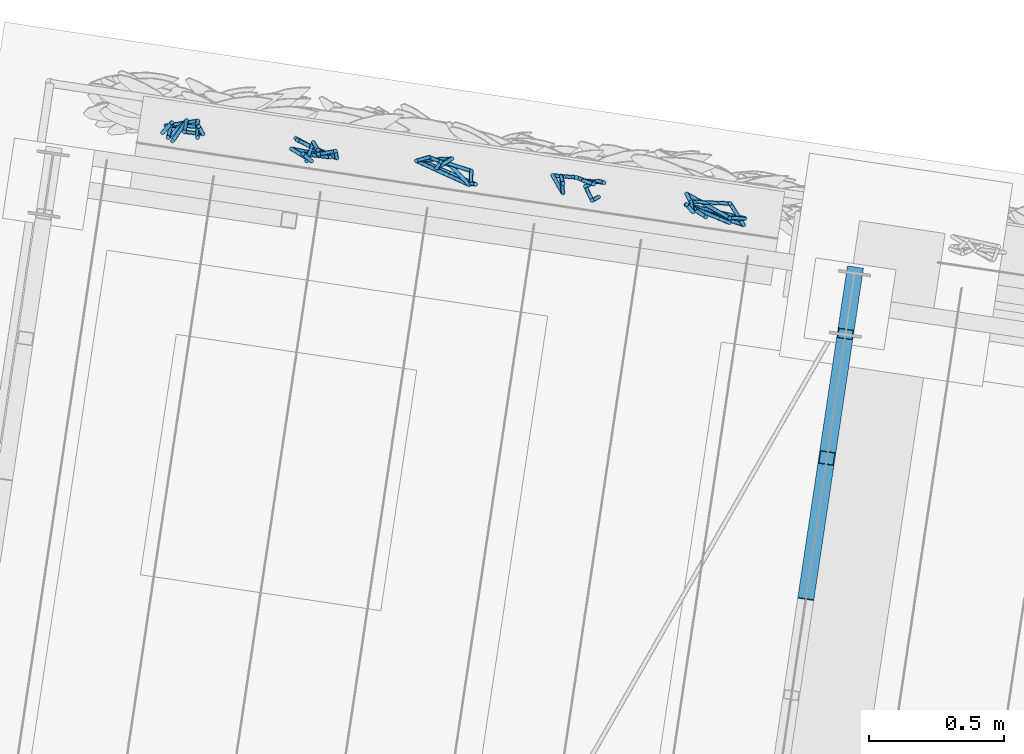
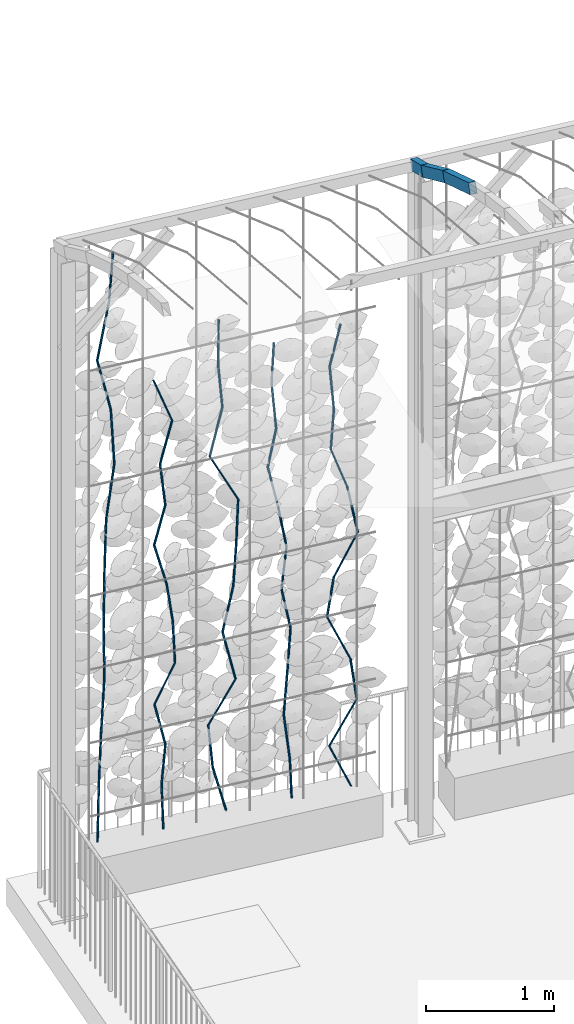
# One storey, part 112 of 142: 58 members, 2 elements without a shape of their own.
"""IFC4 building model written with IfcOpenShell, lengths in metres."""

from ifc_helpers import new_model, si_unit, direction, frame, origin_with_axes, place, context, subcontext, project, spatial, hollow_rectangle, circle, extrude, material, material_profile, profile_set, profile_usage, type_object, element, aggregate, save


model = new_model("IFC4")

# Units and contexts
model_context = context("Model", 3, precision=1e-05, world=origin_with_axes(), true_north=direction((0.0, 1.0)))
body_context = subcontext(model_context, "Body", "Model", "MODEL_VIEW")
ifc_project = project(units=[si_unit("AREAUNIT", "SQUARE_METRE"), si_unit("VOLUMEUNIT", "CUBIC_METRE"), si_unit("LENGTHUNIT", "METRE")], contexts=[model_context])

# Site, building, storey
site_placement = place(None, origin_with_axes())
site = spatial("IfcSite", under=ifc_project, at=site_placement, Name="Lares · Rua das Mercês · artigo 4771")
building_placement = place(site_placement, frame((15.0, 9.7, 14.65), z_axis=(0.0, 0.0, 1.0), x_axis=(0.989015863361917, -0.147809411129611, 0.0)))
building = spatial("IfcBuilding", under=site, at=building_placement, Name="Casa Sobreposta")
storey_placement = place(building_placement, origin_with_axes())
storey = spatial("IfcBuildingStorey", under=building, at=storey_placement, Name="00 · Habitação e estacionamento", Elevation=14.65)

# Assembly, members
assembly_1_placement = place(storey_placement, origin_with_axes())
assembly_1 = element("IfcElementAssembly", 1, at=assembly_1_placement, inside=storey, Name="Pérgola · prolongamento da estufa 6 m", ObjectType="PERGOLA_GREENHOUSE_EXTENSION", PredefinedType="USERDEFINED")
ifc_material_1 = material(Name="Aço pintado / Stahl lackiert", Category="steel")
ifc_material_profile_1 = material_profile(ifc_material_1, hollow_rectangle(XDim=0.06, YDim=0.1, WallThickness=0.004))
ifc_profile_set_1 = profile_set([ifc_material_profile_1], Name="RHS100x60x4")
ifc_profile_usage_1 = profile_usage(ifc_profile_set_1)
member_type_1 = type_object("IfcMemberType", Name="RHS100x60x4 / steel", PredefinedType="NOTDEFINED", material=ifc_profile_set_1)
member_1_placement = place(assembly_1_placement, frame((-3.0, 5.15650506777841, 6.8157371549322), z_axis=(0.0, 0.915895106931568, -0.401417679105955), x_axis=(1.0, 0.0, 0.0)))
member_1 = element("IfcMember", 2, at=member_1_placement, type_object=member_type_1, material=ifc_profile_usage_1, Name="Pérgola · arco contínuo com a estufa", context=body_context, shape_type="SweptSolid", body=[
    extrude(hollow_rectangle(XDim=0.06, YDim=0.1, WallThickness=0.004), origin_with_axes(), (0.0, 0.0, 1.0), 0.596721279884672),
])
ifc_profile_usage_2 = profile_usage(ifc_profile_set_1)
member_2_placement = place(assembly_1_placement, frame((-3.0, 5.70303916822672, 6.57620268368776), z_axis=(0.0, 0.878867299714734, -0.477066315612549), x_axis=(1.0, 0.0, 0.0)))
member_2 = element("IfcMember", 3, at=member_2_placement, type_object=member_type_1, material=ifc_profile_usage_2, Name="Pérgola · arco contínuo com a estufa", context=body_context, shape_type="SweptSolid", body=[
    extrude(hollow_rectangle(XDim=0.06, YDim=0.1, WallThickness=0.004), origin_with_axes(), (0.0, 0.0, 1.0), 0.52859183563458),
])
ifc_profile_usage_3 = profile_usage(ifc_profile_set_1)
member_3_placement = place(assembly_1_placement, frame((-3.0, 6.16760124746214, 6.3240293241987), z_axis=(0.0, 0.932880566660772, -0.360185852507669), x_axis=(1.0, 0.0, 0.0)))
member_3 = element("IfcMember", 4, at=member_3_placement, type_object=member_type_1, material=ifc_profile_usage_3, Name="Pérgola · arco contínuo com a estufa", context=body_context, shape_type="SweptSolid", body=[
    extrude(hollow_rectangle(XDim=0.06, YDim=0.1, WallThickness=0.004), origin_with_axes(), (0.0, 0.0, 1.0), 0.249119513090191),
])
aggregate(assembly_1, [member_1, member_2, member_3])

assembly_2_placement = place(storey_placement, origin_with_axes())
assembly_2 = element("IfcElementAssembly", 5, at=assembly_2_placement, inside=storey, Name="Fachada sul e pátio · estrutura e trepadeiras", ObjectType="LIVING_SHADE_TRELLIS", PredefinedType="USERDEFINED")
ifc_material_2 = material(Name="Ramos de trepadeiras", Category="wood")
ifc_material_profile_2 = material_profile(ifc_material_2, circle(Radius=0.0075))
ifc_profile_set_2 = profile_set([ifc_material_profile_2], Name="D0.015")
ifc_profile_usage_4 = profile_usage(ifc_profile_set_2)
member_type_2 = type_object("IfcMemberType", Name="D0.015 / vine_wood", PredefinedType="NOTDEFINED", material=ifc_profile_set_2)
member_4_placement = place(assembly_2_placement, frame((-5.61062551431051, 6.53102255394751, 0.35), z_axis=(0.0548183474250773, 0.0823641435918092, 0.995093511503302), x_axis=(0.83247493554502, -0.554062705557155, 0.0)))
member_4 = element("IfcMember", 6, at=member_4_placement, type_object=member_type_2, material=ifc_profile_usage_4, Name="Trepadeiras · ramo", context=body_context, shape_type="SweptSolid", body=[
    extrude(circle(Radius=0.0075), origin_with_axes(), (0.0, 0.0, 1.0), 0.511123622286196),
])
ifc_profile_usage_5 = profile_usage(ifc_profile_set_2)
member_5_placement = place(assembly_2_placement, frame((-5.58260656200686, 6.57312081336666, 0.858615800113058), z_axis=(-0.00976761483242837, -0.111772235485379, 0.993685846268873), x_axis=(-0.996203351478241, 0.0870567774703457, 0.0)))
member_5 = element("IfcMember", 7, at=member_5_placement, type_object=member_type_2, material=ifc_profile_usage_5, Name="Trepadeiras · ramo", context=body_context, shape_type="SweptSolid", body=[
    extrude(circle(Radius=0.0075), origin_with_axes(), (0.0, 0.0, 1.0), 0.511847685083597),
])
ifc_profile_usage_6 = profile_usage(ifc_profile_set_2)
member_6_placement = place(assembly_2_placement, frame((-5.58760609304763, 6.51591045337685, 1.36723160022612), z_axis=(0.112625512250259, 0.141112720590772, 0.983566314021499), x_axis=(0.781583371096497, -0.6238007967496, 0.0)))
member_6 = element("IfcMember", 8, at=member_6_placement, type_object=member_type_2, material=ifc_profile_usage_6, Name="Trepadeiras · ramo", context=body_context, shape_type="SweptSolid", body=[
    extrude(circle(Radius=0.0075), origin_with_axes(), (0.0, 0.0, 1.0), 0.517113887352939),
])
ifc_profile_usage_7 = profile_usage(ifc_profile_set_2)
member_7_placement = place(assembly_2_placement, frame((-5.52936587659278, 6.58888180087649, 1.87584740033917), z_axis=(-0.0781133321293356, -0.161839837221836, 0.983720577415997), x_axis=(-0.90058702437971, 0.434675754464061, 0.0)))
member_7 = element("IfcMember", 9, at=member_7_placement, type_object=member_type_2, material=ifc_profile_usage_7, Name="Trepadeiras · ramo", context=body_context, shape_type="SweptSolid", body=[
    extrude(circle(Radius=0.0075), origin_with_axes(), (0.0, 0.0, 1.0), 0.517032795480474),
])
ifc_profile_usage_8 = profile_usage(ifc_profile_set_2)
member_8_placement = place(assembly_2_placement, frame((-5.56975303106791, 6.50520529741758, 2.38446320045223), z_axis=(0.078738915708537, 0.159780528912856, 0.984007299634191), x_axis=(0.89699768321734, -0.442035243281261, 0.0)))
member_8 = element("IfcMember", 10, at=member_8_placement, type_object=member_type_2, material=ifc_profile_usage_8, Name="Trepadeiras · ramo", context=body_context, shape_type="SweptSolid", body=[
    extrude(circle(Radius=0.0075), origin_with_axes(), (0.0, 0.0, 1.0), 0.516882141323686),
])
ifc_profile_usage_9 = profile_usage(ifc_profile_set_2)
member_9_placement = place(assembly_2_placement, frame((-5.52905429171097, 6.58779299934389, 2.89307900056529), z_axis=(-0.00477616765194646, -0.0816811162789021, 0.996647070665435), x_axis=(-0.998294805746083, 0.0583736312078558, 0.0)))
member_9 = element("IfcMember", 11, at=member_9_placement, type_object=member_type_2, material=ifc_profile_usage_9, Name="Trepadeiras · ramo", context=body_context, shape_type="SweptSolid", body=[
    extrude(circle(Radius=0.0075), origin_with_axes(), (0.0, 0.0, 1.0), 0.510326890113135),
])
ifc_profile_usage_10 = profile_usage(ifc_profile_set_2)
member_10_placement = place(assembly_2_placement, frame((-5.53149169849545, 6.54610892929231, 3.40169480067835), z_axis=(0.134710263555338, 0.00481535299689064, 0.990873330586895), x_axis=(0.0357231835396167, -0.999361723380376, -7.96985533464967e-19)))
member_10 = element("IfcMember", 12, at=member_10_placement, type_object=member_type_2, material=ifc_profile_usage_10, Name="Trepadeiras · ramo", context=body_context, shape_type="SweptSolid", body=[
    extrude(circle(Radius=0.0075), origin_with_axes(), (0.0, 0.0, 1.0), 0.513300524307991),
])
ifc_profile_usage_11 = profile_usage(ifc_profile_set_2)
member_11_placement = place(assembly_2_placement, frame((-5.46234484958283, 6.54858065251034, 3.91031060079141), z_axis=(-0.0383027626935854, 0.0489541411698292, 0.99806632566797), x_axis=(0.787576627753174, 0.616216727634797, 0.0)))
member_11 = element("IfcMember", 13, at=member_11_placement, type_object=member_type_2, material=ifc_profile_usage_11, Name="Trepadeiras · ramo", context=body_context, shape_type="SweptSolid", body=[
    extrude(circle(Radius=0.0075), origin_with_axes(), (0.0, 0.0, 1.0), 0.509601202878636),
])
ifc_profile_usage_12 = profile_usage(ifc_profile_set_2)
member_12_placement = place(assembly_2_placement, frame((-5.48186398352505, 6.57352774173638, 4.41892640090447), z_axis=(-0.229983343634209, -0.028965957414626, 0.972763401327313), x_axis=(-0.124960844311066, 0.992161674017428, 0.0)))
member_12 = element("IfcMember", 14, at=member_12_placement, type_object=member_type_2, material=ifc_profile_usage_12, Name="Trepadeiras · ramo", context=body_context, shape_type="SweptSolid", body=[
    extrude(circle(Radius=0.0075), origin_with_axes(), (0.0, 0.0, 1.0), 0.522856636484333),
])
ifc_profile_usage_13 = profile_usage(ifc_profile_set_2)
member_13_placement = place(assembly_2_placement, frame((-5.60211230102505, 6.55838269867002, 4.92754220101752), z_axis=(0.217821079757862, 0.0672022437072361, 0.973672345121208), x_axis=(0.294808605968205, -0.955556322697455, 0.0)))
member_13 = element("IfcMember", 15, at=member_13_placement, type_object=member_type_2, material=ifc_profile_usage_13, Name="Trepadeiras · ramo", context=body_context, shape_type="SweptSolid", body=[
    extrude(circle(Radius=0.0075), origin_with_axes(), (0.0, 0.0, 1.0), 0.522368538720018),
])
ifc_profile_usage_14 = profile_usage(ifc_profile_set_2)
member_14_placement = place(assembly_2_placement, frame((-5.48832942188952, 6.59348703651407, 5.43615800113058), z_axis=(0.0159287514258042, -0.120372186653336, 0.992601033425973), x_axis=(-0.991357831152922, -0.131185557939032, 0.0)))
member_14 = element("IfcMember", 16, at=member_14_placement, type_object=member_type_2, material=ifc_profile_usage_14, Name="Trepadeiras · ramo", context=body_context, shape_type="SweptSolid", body=[
    extrude(circle(Radius=0.0075), origin_with_axes(), (0.0, 0.0, 1.0), 0.512407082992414),
])
ifc_profile_usage_15 = profile_usage(ifc_profile_set_2)
member_15_placement = place(assembly_2_placement, frame((-5.06742901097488, 6.50636980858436, 0.35), z_axis=(0.0353901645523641, 0.18278637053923, 0.982515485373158), x_axis=(0.981767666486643, -0.190084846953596, 0.0)))
member_15 = element("IfcMember", 17, at=member_15_placement, type_object=member_type_2, material=ifc_profile_usage_15, Name="Trepadeiras · ramo", context=body_context, shape_type="SweptSolid", body=[
    extrude(circle(Radius=0.0075), origin_with_axes(), (0.0, 0.0, 1.0), 0.393038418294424),
])
ifc_profile_usage_16 = profile_usage(ifc_profile_set_2)
member_16_placement = place(assembly_2_placement, frame((-5.05351931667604, 6.57821187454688, 0.736166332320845), z_axis=(0.0556737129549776, -0.068234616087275, 0.996114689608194), x_axis=(-0.774817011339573, -0.632185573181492, 0.0)))
member_16 = element("IfcMember", 18, at=member_16_placement, type_object=member_type_2, material=ifc_profile_usage_16, Name="Trepadeiras · ramo", context=body_context, shape_type="SweptSolid", body=[
    extrude(circle(Radius=0.0075), origin_with_axes(), (0.0, 0.0, 1.0), 0.387672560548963),
])
ifc_profile_usage_17 = profile_usage(ifc_profile_set_2)
member_17_placement = place(assembly_2_placement, frame((-5.03193614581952, 6.55175918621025, 1.12233266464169), z_axis=(-0.205369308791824, 0.0655980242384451, 0.976483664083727), x_axis=(0.304270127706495, 0.952585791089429, 0.0)))
member_17 = element("IfcMember", 19, at=member_17_placement, type_object=member_type_2, material=ifc_profile_usage_17, Name="Trepadeiras · ramo", context=body_context, shape_type="SweptSolid", body=[
    extrude(circle(Radius=0.0075), origin_with_axes(), (0.0, 0.0, 1.0), 0.395466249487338),
])
ifc_profile_usage_18 = profile_usage(ifc_profile_set_2)
member_18_placement = place(assembly_2_placement, frame((-5.11315277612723, 6.57770099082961, 1.50849899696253), z_axis=(0.369026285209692, -0.107377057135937, 0.923195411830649), x_axis=(-0.279387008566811, -0.960178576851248, -1.66678120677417e-17)))
member_18 = element("IfcMember", 20, at=member_18_placement, type_object=member_type_2, material=ifc_profile_usage_18, Name="Trepadeiras · ramo", context=body_context, shape_type="SweptSolid", body=[
    extrude(circle(Radius=0.0075), origin_with_axes(), (0.0, 0.0, 1.0), 0.41829316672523),
])
ifc_profile_usage_19 = profile_usage(ifc_profile_set_2)
member_19_placement = place(assembly_2_placement, frame((-4.95879160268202, 6.53278590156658, 1.89466532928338), z_axis=(-0.0229513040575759, 0.0642605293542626, 0.997669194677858), x_axis=(0.941736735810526, 0.336350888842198, 3.17038529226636e-18)))
member_19 = element("IfcMember", 21, at=member_19_placement, type_object=member_type_2, material=ifc_profile_usage_19, Name="Trepadeiras · ramo", context=body_context, shape_type="SweptSolid", body=[
    extrude(circle(Radius=0.0075), origin_with_axes(), (0.0, 0.0, 1.0), 0.387068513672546),
])
ifc_profile_usage_20 = profile_usage(ifc_profile_set_2)
member_20_placement = place(assembly_2_placement, frame((-4.96767532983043, 6.55765912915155, 2.28083166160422), z_axis=(-0.154656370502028, -0.0516676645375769, 0.986616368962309), x_axis=(-0.316865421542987, 0.948470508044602, 0.0)))
member_20 = element("IfcMember", 22, at=member_20_placement, type_object=member_type_2, material=ifc_profile_usage_20, Name="Trepadeiras · ramo", context=body_context, shape_type="SweptSolid", body=[
    extrude(circle(Radius=0.0075), origin_with_axes(), (0.0, 0.0, 1.0), 0.391404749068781),
])
ifc_profile_usage_21 = profile_usage(ifc_profile_set_2)
member_21_placement = place(assembly_2_placement, frame((-5.02820856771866, 6.53743615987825, 2.66699799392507), z_axis=(-0.254671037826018, 0.0128912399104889, 0.966941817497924), x_axis=(0.0505544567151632, 0.998721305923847, 0.0)))
member_21 = element("IfcMember", 23, at=member_21_placement, type_object=member_type_2, material=ifc_profile_usage_21, Name="Trepadeiras · ramo", context=body_context, shape_type="SweptSolid", body=[
    extrude(circle(Radius=0.0075), origin_with_axes(), (0.0, 0.0, 1.0), 0.399368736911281),
])
ifc_profile_usage_22 = profile_usage(ifc_profile_set_2)
member_22_placement = place(assembly_2_placement, frame((-5.12991621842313, 6.54258451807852, 3.05316432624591), z_axis=(0.202327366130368, -0.0854035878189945, 0.975586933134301), x_axis=(-0.388881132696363, -0.921287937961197, 0.0)))
member_22 = element("IfcMember", 24, at=member_22_placement, type_object=member_type_2, material=ifc_profile_usage_22, Name="Trepadeiras · ramo", context=body_context, shape_type="SweptSolid", body=[
    extrude(circle(Radius=0.0075), origin_with_axes(), (0.0, 0.0, 1.0), 0.395829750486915),
])
ifc_profile_usage_23 = profile_usage(ifc_profile_set_2)
member_23_placement = place(assembly_2_placement, frame((-5.04982902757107, 6.50877923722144, 3.43933065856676), z_axis=(-0.0916184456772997, 0.0549727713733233, 0.994275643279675), x_axis=(0.514507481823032, 0.857485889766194, 0.0)))
member_23 = element("IfcMember", 25, at=member_23_placement, type_object=member_type_2, material=ifc_profile_usage_23, Name="Trepadeiras · ramo", context=body_context, shape_type="SweptSolid", body=[
    extrude(circle(Radius=0.0075), origin_with_axes(), (0.0, 0.0, 1.0), 0.388389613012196),
])
ifc_profile_usage_24 = profile_usage(ifc_profile_set_2)
member_24_placement = place(assembly_2_placement, frame((-5.08541268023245, 6.53013009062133, 3.8254969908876), z_axis=(0.256565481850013, 0.00653359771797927, 0.966504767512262), x_axis=(0.0254573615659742, -0.999675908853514, 0.0)))
member_24 = element("IfcMember", 26, at=member_24_placement, type_object=member_type_2, material=ifc_profile_usage_24, Name="Trepadeiras · ramo", context=body_context, shape_type="SweptSolid", body=[
    extrude(circle(Radius=0.0075), origin_with_axes(), (0.0, 0.0, 1.0), 0.39954933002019),
])
ifc_profile_usage_25 = profile_usage(ifc_profile_set_2)
member_25_placement = place(assembly_2_placement, frame((-4.98290211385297, 6.53274058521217, 4.21166332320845), z_axis=(-0.333263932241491, 0.122975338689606, 0.934779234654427), x_axis=(0.346185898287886, 0.938165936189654, 0.0)))
member_25 = element("IfcMember", 27, at=member_25_placement, type_object=member_type_2, material=ifc_profile_usage_25, Name="Trepadeiras · ramo", context=body_context, shape_type="SweptSolid", body=[
    extrude(circle(Radius=0.0075), origin_with_axes(), (0.0, 0.0, 1.0), 0.413109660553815),
])
ifc_profile_usage_26 = profile_usage(ifc_profile_set_2)
member_26_placement = place(assembly_2_placement, frame((-4.516484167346, 6.56319348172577, 0.35), z_axis=(-0.237502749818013, 0.0547067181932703, 0.969845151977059), x_axis=(0.224463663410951, 0.974482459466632, 0.0)))
member_26 = element("IfcMember", 28, at=member_26_placement, type_object=member_type_2, material=ifc_profile_usage_26, Name="Trepadeiras · ramo", context=body_context, shape_type="SweptSolid", body=[
    extrude(circle(Radius=0.0075), origin_with_axes(), (0.0, 0.0, 1.0), 0.439365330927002),
])
ifc_profile_usage_27 = profile_usage(ifc_profile_set_2)
member_27_placement = place(assembly_2_placement, frame((-4.62083464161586, 6.58722971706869, 0.776116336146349), z_axis=(-0.106307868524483, -0.0477073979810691, 0.993188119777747), x_axis=(-0.409428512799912, 0.912342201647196, 0.0)))
member_27 = element("IfcMember", 29, at=member_27_placement, type_object=member_type_2, material=ifc_profile_usage_27, Name="Trepadeiras · ramo", context=body_context, shape_type="SweptSolid", body=[
    extrude(circle(Radius=0.0075), origin_with_axes(), (0.0, 0.0, 1.0), 0.429038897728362),
])
ifc_profile_usage_28 = profile_usage(ifc_profile_set_2)
member_28_placement = place(assembly_2_placement, frame((-4.66644485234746, 6.5667613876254, 1.2022326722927), z_axis=(0.43290575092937, -0.123104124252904, 0.892993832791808), x_axis=(-0.273522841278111, -0.961865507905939, 0.0)))
member_28 = element("IfcMember", 30, at=member_28_placement, type_object=member_type_2, material=ifc_profile_usage_28, Name="Trepadeiras · ramo", context=body_context, shape_type="SweptSolid", body=[
    extrude(circle(Radius=0.0075), origin_with_axes(), (0.0, 0.0, 1.0), 0.47717724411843),
])
ifc_profile_usage_29 = profile_usage(ifc_profile_set_2)
member_29_placement = place(assembly_2_placement, frame((-4.45987207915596, 6.50801890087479, 1.62834900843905), z_axis=(-0.190491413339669, 0.14988591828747, 0.970178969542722), x_axis=(0.618367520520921, 0.785889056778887, 0.0)))
member_29 = element("IfcMember", 31, at=member_29_placement, type_object=member_type_2, material=ifc_profile_usage_29, Name="Trepadeiras · ramo", context=body_context, shape_type="SweptSolid", body=[
    extrude(circle(Radius=0.0075), origin_with_axes(), (0.0, 0.0, 1.0), 0.43921415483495),
])
ifc_profile_usage_30 = profile_usage(ifc_profile_set_2)
member_30_placement = place(assembly_2_placement, frame((-4.54353860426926, 6.57385091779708, 2.0544653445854), z_axis=(0.1941509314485, -0.0330556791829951, 0.980414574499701), x_axis=(-0.167842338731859, -0.985813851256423, -4.3178291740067e-18)))
member_30 = element("IfcMember", 32, at=member_30_placement, type_object=member_type_2, material=ifc_profile_usage_30, Name="Trepadeiras · ramo", context=body_context, shape_type="SweptSolid", body=[
    extrude(circle(Radius=0.0075), origin_with_axes(), (0.0, 0.0, 1.0), 0.434628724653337),
])
ifc_profile_usage_31 = profile_usage(ifc_profile_set_2)
member_31_placement = place(assembly_2_placement, frame((-4.45915503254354, 6.55948397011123, 2.48058168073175), z_axis=(0.0144929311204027, -0.109943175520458, 0.993832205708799), x_axis=(-0.991423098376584, -0.130691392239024, 0.0)))
member_31 = element("IfcMember", 33, at=member_31_placement, type_object=member_type_2, material=ifc_profile_usage_31, Name="Trepadeiras · ramo", context=body_context, shape_type="SweptSolid", body=[
    extrude(circle(Radius=0.0075), origin_with_axes(), (0.0, 0.0, 1.0), 0.428760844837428),
])
ifc_profile_usage_32 = profile_usage(ifc_profile_set_2)
member_32_placement = place(assembly_2_placement, frame((-4.45294103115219, 6.51234464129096, 2.90669801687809), z_axis=(0.0391360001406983, 0.00180597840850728, 0.999232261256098), x_axis=(0.999233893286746, -7.07329602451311e-05, -0.0391359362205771)))
member_32 = element("IfcMember", 34, at=member_32_placement, type_object=member_type_2, material=ifc_profile_usage_32, Name="Trepadeiras · ramo", context=body_context, shape_type="SweptSolid", body=[
    extrude(circle(Radius=0.0075), origin_with_axes(), (0.0, 0.0, 1.0), 0.426443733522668),
])
ifc_profile_usage_33 = profile_usage(ifc_profile_set_2)
member_33_placement = place(assembly_2_placement, frame((-4.43625172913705, 6.51311478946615, 3.33281435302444), z_axis=(-0.448214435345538, 0.121140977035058, 0.885679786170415), x_axis=(0.26091291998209, 0.965362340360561, 0.0)))
member_33 = element("IfcMember", 35, at=member_33_placement, type_object=member_type_2, material=ifc_profile_usage_33, Name="Trepadeiras · ramo", context=body_context, shape_type="SweptSolid", body=[
    extrude(circle(Radius=0.0075), origin_with_axes(), (0.0, 0.0, 1.0), 0.481117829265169),
])
ifc_profile_usage_34 = profile_usage(ifc_profile_set_2)
member_34_placement = place(assembly_2_placement, frame((-4.6518956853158, 6.57139787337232, 3.75893068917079), z_axis=(0.26034641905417, 0.0511473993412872, 0.964159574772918), x_axis=(0.192774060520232, -0.981243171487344, 0.0)))
member_34 = element("IfcMember", 36, at=member_34_placement, type_object=member_type_2, material=ifc_profile_usage_34, Name="Trepadeiras · ramo", context=body_context, shape_type="SweptSolid", body=[
    extrude(circle(Radius=0.0075), origin_with_axes(), (0.0, 0.0, 1.0), 0.441956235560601),
])
ifc_profile_usage_35 = profile_usage(ifc_profile_set_2)
member_35_placement = place(assembly_2_placement, frame((-4.53683396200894, 6.59400278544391, 4.18504702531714), z_axis=(-0.11744994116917, -0.0987498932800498, 0.988156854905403), x_axis=(-0.643543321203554, 0.765409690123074, 0.0)))
member_35 = element("IfcMember", 37, at=member_35_placement, type_object=member_type_2, material=ifc_profile_usage_35, Name="Trepadeiras · ramo", context=body_context, shape_type="SweptSolid", body=[
    extrude(circle(Radius=0.0075), origin_with_axes(), (0.0, 0.0, 1.0), 0.431223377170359),
])
ifc_profile_usage_36 = profile_usage(ifc_profile_set_2)
member_36_placement = place(assembly_2_placement, frame((-4.58748112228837, 6.55141952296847, 4.61116336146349), z_axis=(0.0271477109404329, 0.0579863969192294, 0.997948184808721), x_axis=(0.905659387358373, -0.424005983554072, 0.0)))
member_36 = element("IfcMember", 38, at=member_36_placement, type_object=member_type_2, material=ifc_profile_usage_36, Name="Trepadeiras · ramo", context=body_context, shape_type="SweptSolid", body=[
    extrude(circle(Radius=0.0075), origin_with_axes(), (0.0, 0.0, 1.0), 0.426992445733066),
])
ifc_profile_usage_37 = profile_usage(ifc_profile_set_2)
member_37_placement = place(assembly_2_placement, frame((-3.97859289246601, 6.53402138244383, 0.35), z_axis=(-0.0559624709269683, -0.0404002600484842, 0.997615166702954), x_axis=(-0.585327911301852, 0.810796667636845, 0.0)))
member_37 = element("IfcMember", 39, at=member_37_placement, type_object=member_type_2, material=ifc_profile_usage_37, Name="Trepadeiras · ramo", context=body_context, shape_type="SweptSolid", body=[
    extrude(circle(Radius=0.0075), origin_with_axes(), (0.0, 0.0, 1.0), 0.397059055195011),
])
ifc_profile_usage_38 = profile_usage(ifc_profile_set_2)
member_38_placement = place(assembly_2_placement, frame((-4.00081329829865, 6.51798009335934, 0.746112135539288), z_axis=(-0.0802060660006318, 0.119900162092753, 0.989540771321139), x_axis=(0.831177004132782, 0.556007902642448, 0.0)))
member_38 = element("IfcMember", 40, at=member_38_placement, type_object=member_type_2, material=ifc_profile_usage_38, Name="Trepadeiras · ramo", context=body_context, shape_type="SweptSolid", body=[
    extrude(circle(Radius=0.0075), origin_with_axes(), (0.0, 0.0, 1.0), 0.400298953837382),
])
ifc_profile_usage_39 = profile_usage(ifc_profile_set_2)
member_39_placement = place(assembly_2_placement, frame((-4.03291970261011, 6.56597600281, 1.14222427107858), z_axis=(0.104885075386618, 0.0666123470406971, 0.992250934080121), x_axis=(0.536115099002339, -0.844144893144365, 0.0)))
member_39 = element("IfcMember", 41, at=member_39_placement, type_object=member_type_2, material=ifc_profile_usage_39, Name="Trepadeiras · ramo", context=body_context, shape_type="SweptSolid", body=[
    extrude(circle(Radius=0.0075), origin_with_axes(), (0.0, 0.0, 1.0), 0.399205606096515),
])
ifc_profile_usage_40 = profile_usage(ifc_profile_set_2)
member_40_placement = place(assembly_2_placement, frame((-3.99104899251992, 6.5925680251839, 1.53833640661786), z_axis=(0.0626536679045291, -0.00712374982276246, 0.998009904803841), x_axis=(-0.112972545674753, -0.993598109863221, 0.0)))
member_40 = element("IfcMember", 42, at=member_40_placement, type_object=member_type_2, material=ifc_profile_usage_40, Name="Trepadeiras · ramo", context=body_context, shape_type="SweptSolid", body=[
    extrude(circle(Radius=0.0075), origin_with_axes(), (0.0, 0.0, 1.0), 0.396902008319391),
])
ifc_profile_usage_41 = profile_usage(ifc_profile_set_2)
member_41_placement = place(assembly_2_placement, frame((-3.96618162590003, 6.58974059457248, 1.93444854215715), z_axis=(-0.192543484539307, -0.00909052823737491, 0.981246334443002), x_axis=(-0.0471603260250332, 0.998887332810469, 0.0)))
member_41 = element("IfcMember", 43, at=member_41_placement, type_object=member_type_2, material=ifc_profile_usage_41, Name="Trepadeiras · ramo", context=body_context, shape_type="SweptSolid", body=[
    extrude(circle(Radius=0.0075), origin_with_axes(), (0.0, 0.0, 1.0), 0.403682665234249),
])
ifc_profile_usage_42 = profile_usage(ifc_profile_set_2)
member_42_placement = place(assembly_2_placement, frame((-4.04390809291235, 6.58607090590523, 2.33056067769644), z_axis=(0.0995202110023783, -0.0194869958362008, 0.99484470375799), x_axis=(-0.192160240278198, -0.981363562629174, 0.0)))
member_42 = element("IfcMember", 44, at=member_42_placement, type_object=member_type_2, material=ifc_profile_usage_42, Name="Trepadeiras · ramo", context=body_context, shape_type="SweptSolid", body=[
    extrude(circle(Radius=0.0075), origin_with_axes(), (0.0, 0.0, 1.0), 0.398164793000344),
])
ifc_profile_usage_43 = profile_usage(ifc_profile_set_2)
member_43_placement = place(assembly_2_placement, frame((-4.00428264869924, 6.57831187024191, 2.72667281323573), z_axis=(-0.164761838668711, 0.0378014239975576, 0.985608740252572), x_axis=(0.223620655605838, 0.974676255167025, 0.0)))
member_43 = element("IfcMember", 45, at=member_43_placement, type_object=member_type_2, material=ifc_profile_usage_43, Name="Trepadeiras · ramo", context=body_context, shape_type="SweptSolid", body=[
    extrude(circle(Radius=0.0075), origin_with_axes(), (0.0, 0.0, 1.0), 0.401895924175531),
])
ifc_profile_usage_44 = profile_usage(ifc_profile_set_2)
member_44_placement = place(assembly_2_placement, frame((-4.07049976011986, 6.59350410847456, 3.12278494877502), z_axis=(-0.217023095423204, -0.0139242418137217, 0.976067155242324), x_axis=(-0.0640285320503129, 0.997948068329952, 0.0)))
member_44 = element("IfcMember", 46, at=member_44_placement, type_object=member_type_2, material=ifc_profile_usage_44, Name="Trepadeiras · ramo", context=body_context, shape_type="SweptSolid", body=[
    extrude(circle(Radius=0.0075), origin_with_axes(), (0.0, 0.0, 1.0), 0.405824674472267),
])
ifc_profile_usage_45 = profile_usage(ifc_profile_set_2)
member_45_placement = place(assembly_2_placement, frame((-4.15857308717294, 6.58785330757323, 3.51889708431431), z_axis=(0.117355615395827, -0.146977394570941, 0.982153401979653), x_axis=(-0.781455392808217, -0.623961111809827, 0.0)))
member_45 = element("IfcMember", 47, at=member_45_placement, type_object=member_type_2, material=ifc_profile_usage_45, Name="Trepadeiras · ramo", context=body_context, shape_type="SweptSolid", body=[
    extrude(circle(Radius=0.0075), origin_with_axes(), (0.0, 0.0, 1.0), 0.40330984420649),
])
ifc_profile_usage_46 = profile_usage(ifc_profile_set_2)
member_46_placement = place(assembly_2_placement, frame((-4.1112424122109, 6.52857587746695, 3.91500921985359), z_axis=(-0.038247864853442, 0.148096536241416, 0.988233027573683), x_axis=(0.968230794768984, 0.250058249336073, 0.0)))
member_46 = element("IfcMember", 48, at=member_46_placement, type_object=member_type_2, material=ifc_profile_usage_46, Name="Trepadeiras · ramo", context=body_context, shape_type="SweptSolid", body=[
    extrude(circle(Radius=0.0075), origin_with_axes(), (0.0, 0.0, 1.0), 0.400828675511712),
])
ifc_profile_usage_47 = profile_usage(ifc_profile_set_2)
member_47_placement = place(assembly_2_placement, frame((-4.12657325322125, 6.58793721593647, 4.31112135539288), z_axis=(0.0245630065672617, -0.0592559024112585, 0.997940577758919), x_axis=(-0.923778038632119, -0.382928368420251, 0.0)))
member_47 = element("IfcMember", 49, at=member_47_placement, type_object=member_type_2, material=ifc_profile_usage_47, Name="Trepadeiras · ramo", context=body_context, shape_type="SweptSolid", body=[
    extrude(circle(Radius=0.0075), origin_with_axes(), (0.0, 0.0, 1.0), 0.396929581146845),
])
ifc_profile_usage_48 = profile_usage(ifc_profile_set_2)
member_48_placement = place(assembly_2_placement, frame((-3.48595036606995, 6.51152451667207, 0.35), z_axis=(-0.387050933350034, 0.0963177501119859, 0.917013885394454), x_axis=(0.2414854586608, 0.970404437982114, 0.0)))
member_48 = element("IfcMember", 50, at=member_48_placement, type_object=member_type_2, material=ifc_profile_usage_48, Name="Trepadeiras · ramo", context=body_context, shape_type="SweptSolid", body=[
    extrude(circle(Radius=0.0075), origin_with_axes(), (0.0, 0.0, 1.0), 0.438608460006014),
])
ifc_profile_usage_49 = profile_usage(ifc_profile_set_2)
member_49_placement = place(assembly_2_placement, frame((-3.6557141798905, 6.55377029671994, 0.752210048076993), z_axis=(0.486269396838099, -0.0394758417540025, 0.872916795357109), x_axis=(-0.0809148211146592, -0.996721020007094, -6.2076865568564e-18)))
member_49 = element("IfcMember", 51, at=member_49_placement, type_object=member_type_2, material=ifc_profile_usage_49, Name="Trepadeiras · ramo", context=body_context, shape_type="SweptSolid", body=[
    extrude(circle(Radius=0.0075), origin_with_axes(), (0.0, 0.0, 1.0), 0.46076561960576),
])
ifc_profile_usage_50 = profile_usage(ifc_profile_set_2)
member_50_placement = place(assembly_2_placement, frame((-3.43165795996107, 6.53558118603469, 1.15442009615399), z_axis=(-0.13611773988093, -0.0169348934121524, 0.990547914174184), x_axis=(-0.123461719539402, 0.992349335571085, 0.0)))
member_50 = element("IfcMember", 52, at=member_50_placement, type_object=member_type_2, material=ifc_profile_usage_50, Name="Trepadeiras · ramo", context=body_context, shape_type="SweptSolid", body=[
    extrude(circle(Radius=0.0075), origin_with_axes(), (0.0, 0.0, 1.0), 0.406048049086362),
])
ifc_profile_usage_51 = profile_usage(ifc_profile_set_2)
member_51_placement = place(assembly_2_placement, frame((-3.48692830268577, 6.5287048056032, 1.55663014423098), z_axis=(-0.387536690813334, 0.147038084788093, 0.910052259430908), x_axis=(0.354741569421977, 0.934964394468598, 0.0)))
member_51 = element("IfcMember", 53, at=member_51_placement, type_object=member_type_2, material=ifc_profile_usage_51, Name="Trepadeiras · ramo", context=body_context, shape_type="SweptSolid", body=[
    extrude(circle(Radius=0.0075), origin_with_axes(), (0.0, 0.0, 1.0), 0.441963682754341),
])
ifc_profile_usage_52 = profile_usage(ifc_profile_set_2)
member_52_placement = place(assembly_2_placement, frame((-3.65820544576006, 6.59369029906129, 1.95884019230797), z_axis=(0.0899888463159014, -0.125264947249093, 0.98803375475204), x_axis=(-0.81215464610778, -0.583442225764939, 0.0)))
member_52 = element("IfcMember", 54, at=member_52_placement, type_object=member_type_2, material=ifc_profile_usage_52, Name="Trepadeiras · ramo", context=body_context, shape_type="SweptSolid", body=[
    extrude(circle(Radius=0.0075), origin_with_axes(), (0.0, 0.0, 1.0), 0.407081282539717),
])
ifc_profile_usage_53 = profile_usage(ifc_profile_set_2)
member_53_placement = place(assembly_2_placement, frame((-3.62157267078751, 6.54269728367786, 2.36105024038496), z_axis=(0.423820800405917, -0.0706905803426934, 0.902983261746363), x_axis=(-0.164520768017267, -0.98637361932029, 0.0)))
member_53 = element("IfcMember", 55, at=member_53_placement, type_object=member_type_2, material=ifc_profile_usage_53, Name="Trepadeiras · ramo", context=body_context, shape_type="SweptSolid", body=[
    extrude(circle(Radius=0.0075), origin_with_axes(), (0.0, 0.0, 1.0), 0.445423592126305),
])
ifc_profile_usage_54 = profile_usage(ifc_profile_set_2)
member_54_placement = place(assembly_2_placement, frame((-3.43279288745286, 6.51121003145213, 2.76326028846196), z_axis=(-0.146521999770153, 0.171712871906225, 0.974189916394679), x_axis=(0.760700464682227, 0.649103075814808, 0.0)))
member_54 = element("IfcMember", 56, at=member_54_placement, type_object=member_type_2, material=ifc_profile_usage_54, Name="Trepadeiras · ramo", context=body_context, shape_type="SweptSolid", body=[
    extrude(circle(Radius=0.0075), origin_with_axes(), (0.0, 0.0, 1.0), 0.412866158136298),
])
ifc_profile_usage_55 = profile_usage(ifc_profile_set_2)
member_55_placement = place(assembly_2_placement, frame((-3.49328686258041, 6.5821044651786, 3.16547033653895), z_axis=(-0.337061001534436, -0.0347303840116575, 0.940842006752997), x_axis=(-0.102496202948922, 0.99473339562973, 0.0)))
member_55 = element("IfcMember", 57, at=member_55_placement, type_object=member_type_2, material=ifc_profile_usage_55, Name="Trepadeiras · ramo", context=body_context, shape_type="SweptSolid", body=[
    extrude(circle(Radius=0.0075), origin_with_axes(), (0.0, 0.0, 1.0), 0.427500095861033),
])
ifc_profile_usage_56 = profile_usage(ifc_profile_set_2)
member_56_placement = place(assembly_2_placement, frame((-3.6373804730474, 6.56725722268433, 3.56768038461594), z_axis=(0.0295589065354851, -0.0886838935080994, 0.995621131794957), x_axis=(-0.948690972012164, -0.316204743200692, 0.0)))
member_56 = element("IfcMember", 58, at=member_56_placement, type_object=member_type_2, material=ifc_profile_usage_56, Name="Trepadeiras · ramo", context=body_context, shape_type="SweptSolid", body=[
    extrude(circle(Radius=0.0075), origin_with_axes(), (0.0, 0.0, 1.0), 0.403979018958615),
])
ifc_profile_usage_57 = profile_usage(ifc_profile_set_2)
member_57_placement = place(assembly_2_placement, frame((-3.62543929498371, 6.5314307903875, 3.96989043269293), z_axis=(-0.0654752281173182, 0.056205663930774, 0.9962700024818), x_axis=(0.651352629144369, 0.758775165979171, 0.0)))
member_57 = element("IfcMember", 59, at=member_57_placement, type_object=member_type_2, material=ifc_profile_usage_57, Name="Trepadeiras · ramo", context=body_context, shape_type="SweptSolid", body=[
    extrude(circle(Radius=0.0075), origin_with_axes(), (0.0, 0.0, 1.0), 0.403715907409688),
])
ifc_profile_usage_58 = profile_usage(ifc_profile_set_2)
member_58_placement = place(assembly_2_placement, frame((-3.65187268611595, 6.55412191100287, 4.37210048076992), z_axis=(0.186629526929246, -0.0839762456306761, 0.978834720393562), x_axis=(-0.410336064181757, -0.911934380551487, 0.0)))
member_58 = element("IfcMember", 60, at=member_58_placement, type_object=member_type_2, material=ifc_profile_usage_58, Name="Trepadeiras · ramo", context=body_context, shape_type="SweptSolid", body=[
    extrude(circle(Radius=0.0075), origin_with_axes(), (0.0, 0.0, 1.0), 0.41090700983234),
])
aggregate(assembly_2, [member_4, member_5, member_6, member_7, member_8, member_9, member_10, member_11, member_12, member_13, member_14, member_15, member_16, member_17, member_18, member_19, member_20, member_21, member_22, member_23, member_24, member_25, member_26, member_27, member_28, member_29, member_30, member_31, member_32, member_33, member_34, member_35, member_36, member_37, member_38, member_39, member_40, member_41, member_42, member_43, member_44, member_45, member_46, member_47, member_48, member_49, member_50, member_51, member_52, member_53, member_54, member_55, member_56, member_57, member_58])

save(model, "model.ifc")
